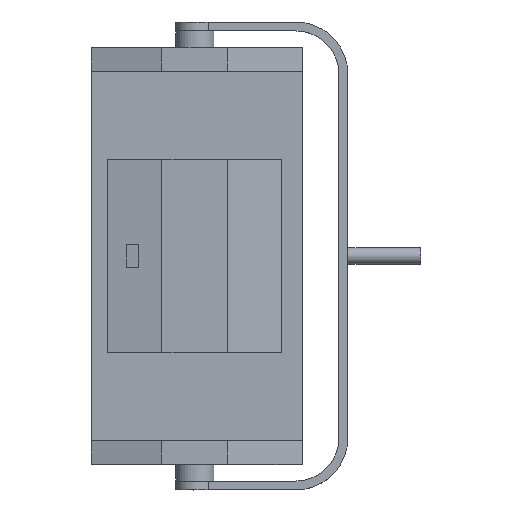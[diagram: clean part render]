
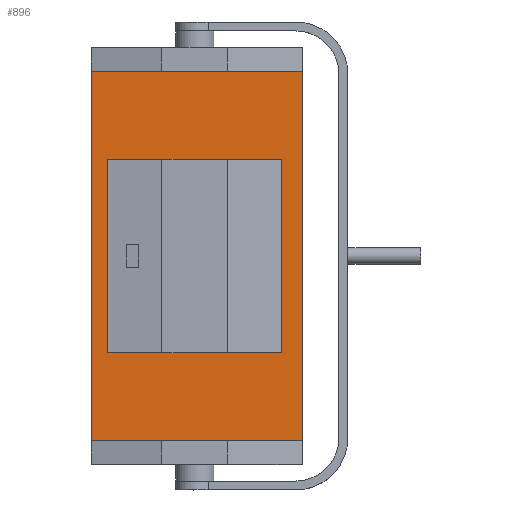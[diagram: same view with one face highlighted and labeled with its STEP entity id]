
A CAD part, top view. The second image highlights one B-rep face of the part: STEP entity #896.
In plain terms, the highlighted planar face has unit normal (0, 0, 1).
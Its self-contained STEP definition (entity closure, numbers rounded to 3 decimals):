
#28=FACE_BOUND('',#138,.T.);
#85=FACE_OUTER_BOUND('',#137,.T.);
#137=EDGE_LOOP('',(#687,#688,#689,#690));
#138=EDGE_LOOP('',(#691,#692,#693,#694));
#199=LINE('',#1353,#304);
#204=LINE('',#1362,#309);
#209=LINE('',#1372,#314);
#211=LINE('',#1376,#316);
#217=LINE('',#1390,#322);
#225=LINE('',#1406,#330);
#226=LINE('',#1408,#331);
#227=LINE('',#1409,#332);
#304=VECTOR('',#1096,10.);
#309=VECTOR('',#1103,10.);
#314=VECTOR('',#1112,10.);
#316=VECTOR('',#1118,10.);
#322=VECTOR('',#1128,10.);
#330=VECTOR('',#1142,10.);
#331=VECTOR('',#1143,10.);
#332=VECTOR('',#1144,10.);
#402=VERTEX_POINT('',#1350);
#403=VERTEX_POINT('',#1352);
#406=VERTEX_POINT('',#1360);
#409=VERTEX_POINT('',#1370);
#414=VERTEX_POINT('',#1387);
#415=VERTEX_POINT('',#1389);
#420=VERTEX_POINT('',#1405);
#421=VERTEX_POINT('',#1407);
#495=EDGE_CURVE('',#403,#402,#199,.T.);
#500=EDGE_CURVE('',#402,#406,#204,.T.);
#505=EDGE_CURVE('',#406,#409,#209,.T.);
#507=EDGE_CURVE('',#409,#403,#211,.T.);
#513=EDGE_CURVE('',#415,#414,#217,.T.);
#521=EDGE_CURVE('',#414,#420,#225,.F.);
#522=EDGE_CURVE('',#420,#421,#226,.T.);
#523=EDGE_CURVE('',#421,#415,#227,.T.);
#687=ORIENTED_EDGE('',*,*,#513,.T.);
#688=ORIENTED_EDGE('',*,*,#521,.T.);
#689=ORIENTED_EDGE('',*,*,#522,.T.);
#690=ORIENTED_EDGE('',*,*,#523,.T.);
#691=ORIENTED_EDGE('',*,*,#495,.T.);
#692=ORIENTED_EDGE('',*,*,#500,.T.);
#693=ORIENTED_EDGE('',*,*,#505,.T.);
#694=ORIENTED_EDGE('',*,*,#507,.T.);
#852=PLANE('',#978);
#896=ADVANCED_FACE('',(#85,#28),#852,.F.);
#978=AXIS2_PLACEMENT_3D('',#1404,#1140,#1141);
#1096=DIRECTION('',(0.,1.,0.));
#1103=DIRECTION('',(1.,0.,0.));
#1112=DIRECTION('',(0.,-1.,0.));
#1118=DIRECTION('',(-1.,0.,0.));
#1128=DIRECTION('',(-1.,0.,0.));
#1140=DIRECTION('center_axis',(0.,0.,-1.));
#1141=DIRECTION('ref_axis',(0.,-1.,0.));
#1142=DIRECTION('',(0.,1.,0.));
#1143=DIRECTION('',(1.,0.,0.));
#1144=DIRECTION('',(0.,1.,0.));
#1350=CARTESIAN_POINT('',(-146.5,162.5,51.1));
#1352=CARTESIAN_POINT('',(-146.5,-162.5,51.1));
#1353=CARTESIAN_POINT('',(-146.5,0.,51.1));
#1360=CARTESIAN_POINT('',(146.5,162.5,51.1));
#1362=CARTESIAN_POINT('',(3.001,162.5,51.1));
#1370=CARTESIAN_POINT('',(146.5,-162.5,51.1));
#1372=CARTESIAN_POINT('',(146.5,0.,51.1));
#1376=CARTESIAN_POINT('',(3.001,-162.5,51.1));
#1387=CARTESIAN_POINT('',(-173.913,310.5,51.1));
#1389=CARTESIAN_POINT('',(181.002,310.5,51.1));
#1390=CARTESIAN_POINT('',(4.773,310.5,51.1));
#1404=CARTESIAN_POINT('Origin',(6.001,0.,51.1));
#1405=CARTESIAN_POINT('',(-173.913,-310.5,51.1));
#1406=CARTESIAN_POINT('',(-173.913,0.,51.1));
#1407=CARTESIAN_POINT('',(181.002,-310.5,51.1));
#1408=CARTESIAN_POINT('',(4.773,-310.5,51.1));
#1409=CARTESIAN_POINT('',(181.002,0.,51.1));
